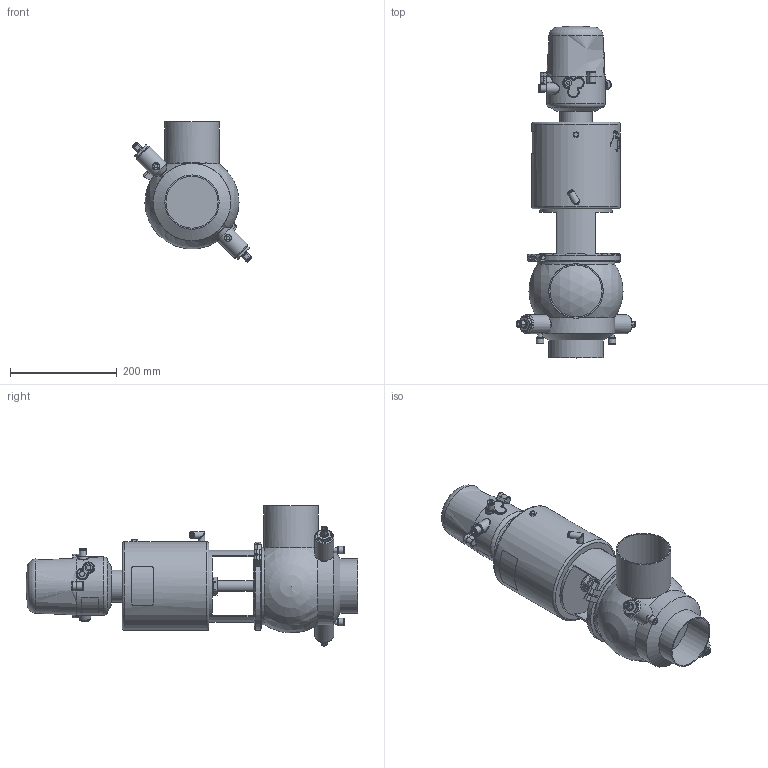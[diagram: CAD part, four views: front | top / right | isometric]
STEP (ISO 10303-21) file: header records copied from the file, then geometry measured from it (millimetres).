
FILE_DESCRIPTION (( 'STEP AP214' ), '1' );
FILE_NAME ('INNOVA D L W OD 4 T4 AS NC & C-TOP S_10.246.16.0003.STEP', '2024-08-08T09:44:17', ( '' ), ( '' ), 'SwSTEP 2.0', 'SolidWorks 2023', '' );
FILE_SCHEMA (( 'AUTOMOTIVE_DESIGN' ));
Length unit declared in the file: millimetre
Products named in the file (7): 10.240.15.0010_DN 100; 10.246.15.0001_OD 4"; 10.240.15.0017_Estàndard; INNOVA D L W OD 4 T4 AS NC & C-TOP S_10.246.16.0003; 10.426.15.0001_C-TOP S - 1 EV; 10.240.15.0001_DN 100; 10.240.15.0014_T4 AS P0
Assembly tree (6 placements, depth 2):
  INNOVA D L W OD 4 T4 AS NC & C-TOP S_10.246.16.0003
    10.246.15.0001_OD 4"
    10.240.15.0010_DN 100
    10.240.15.0014_T4 AS P0
    10.240.15.0017_Estàndard
    10.426.15.0001_C-TOP S - 1 EV
    10.240.15.0001_DN 100
Bounding box: 224.29 x 620.5 x 262.15 mm (x, y, z)
Volume: 8341020.8 mm3; surface area: 552731.1 mm2
Topology: 6 solids, 6 shells, 1195 faces, 2846 edges, 1887 vertices
Faces by surface type: plane 441, cylinder 350, cone 202, bspline 160, torus 36, sphere 6
Full cylindrical faces by diameter (mm): 0.371 x17, 0.512 x16, 0.658 x16, 0.795 x16, 0.94 x15, 1.098 x15, 1.241 x13, 1.382 x13, 1.523 x11, 1.669 x10, 2.201 x1, 4 x2, 5.5 x2, 6 x6, 6.15 x1, 8 x4, 8.5 x1, 9 x2, 10 x3, 10.5 x1, 11 x2, 12 x4, 12.5 x3, 13 x2, 13.5 x2, 14 x4, 15 x2, 16 x1, 17 x3, 20 x3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
Entity records: 60363 total; most frequent: CARTESIAN_POINT 28496, ORIENTED_EDGE 4818, DIRECTION 3999, EDGE_CURVE 2409, VERTEX_POINT 1710, EDGE_LOOP 1689, AXIS2_PLACEMENT_3D 1617, FACE_OUTER_BOUND 1425
